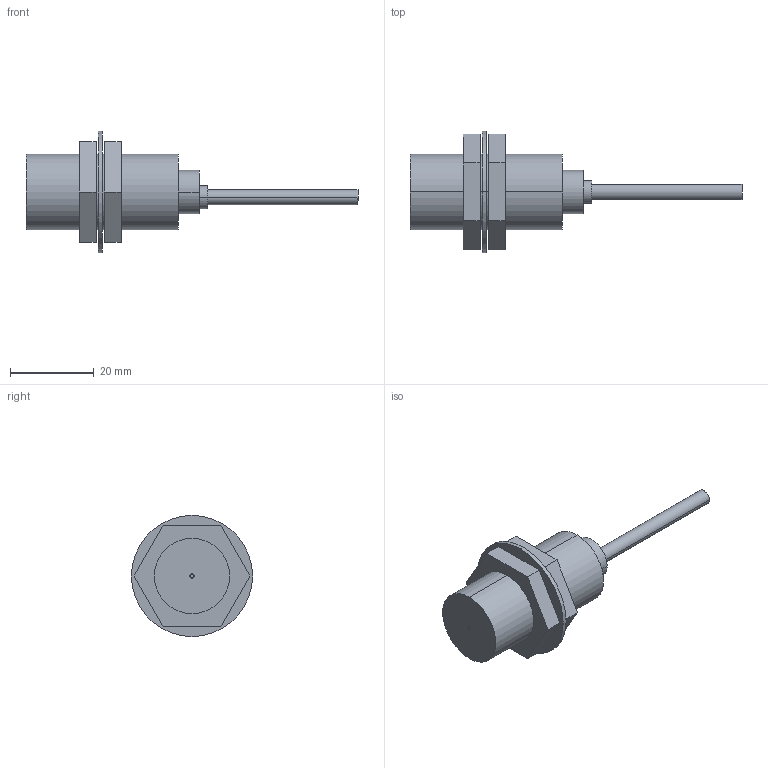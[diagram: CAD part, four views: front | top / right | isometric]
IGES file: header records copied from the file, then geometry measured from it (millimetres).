
Start section: SolidWorks IGES FILE using analytic representation for surfaces
Global section: file name: C:\Documents and Settings\yk0651\デスクトップ\3D_catalog_050929\0_IGES\GX-18MU.IGS; native system: SolidWorks 2004 by SolidWorks Corporation; preprocessor: Version 5.3; author: yk0651; date: 051002.164106; units: millimetre
Bounding box: 79.5 x 29 x 29 mm (x, y, z)
Volume: 12487.4 mm3; surface area: 6233.6 mm2
Topology: 4 solids, 4 shells, 45 faces, 96 edges, 64 vertices
Faces by surface type: plane 25, revolution 20
